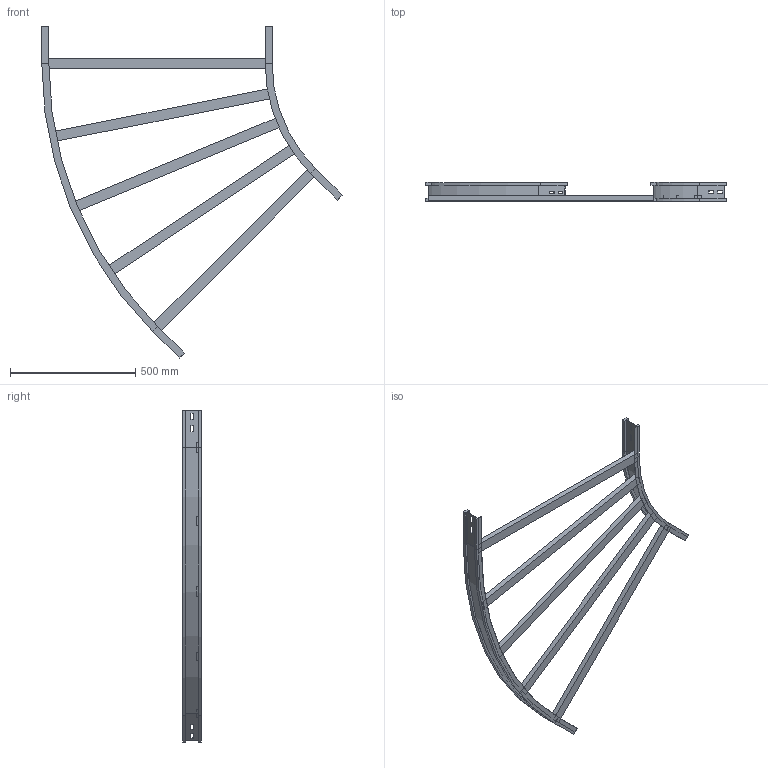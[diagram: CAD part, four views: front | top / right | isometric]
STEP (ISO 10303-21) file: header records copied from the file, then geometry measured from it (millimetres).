
FILE_DESCRIPTION (( 'STEP AP214' ), '1' );
FILE_NAME ('11S6C900.step', '2025-02-21T16:06:37', ( '' ), ( '' ), 'SwSTEP 2.0', 'SolidWorks 2023', '' );
FILE_SCHEMA (( 'AUTOMOTIVE_DESIGN' ));
Length unit declared in the file: millimetre
Products named in the file (4): TRAVERSINO_900; LONGH.ESTERNO 45°_H75_R600+900; LONGH.INTERNO 45°_H75_R600; 11S6C900
Assembly tree (7 placements, depth 2):
  11S6C900
    LONGH.INTERNO 45°_H75_R600
    LONGH.ESTERNO 45°_H75_R600+900
    TRAVERSINO_900  x5
Bounding box: 1197.17 x 75 x 1323.09 mm (x, y, z)
Volume: 4738510.4 mm3; surface area: 1105558 mm2
Topology: 7 solids, 7 shells, 138 faces, 324 edges, 200 vertices
Faces by surface type: plane 126, cylinder 12
Entity records: 3405 total; most frequent: CARTESIAN_POINT 568, ORIENTED_EDGE 552, DIRECTION 548, EDGE_CURVE 276, VECTOR 252, LINE 252, VERTEX_POINT 168, AXIS2_PLACEMENT_3D 148
